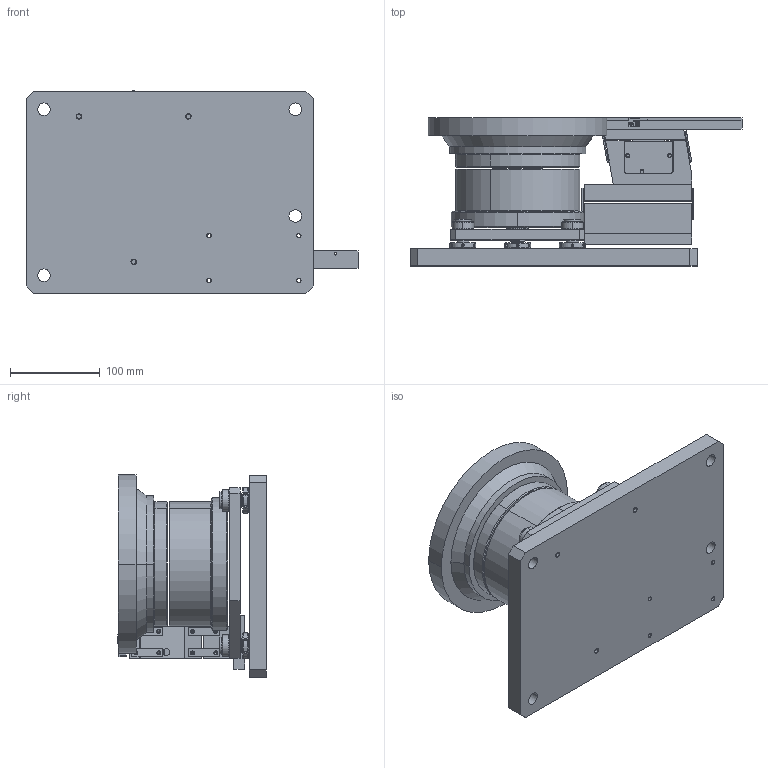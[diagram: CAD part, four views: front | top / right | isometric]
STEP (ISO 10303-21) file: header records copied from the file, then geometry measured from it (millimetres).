
FILE_DESCRIPTION((''),'2;1');
FILE_NAME('G_ASM','2021-09-02T10:45:12',('Administrator'),(''),'CREO PARAMETRIC BY PTC INC, 2020154','CREO PARAMETRIC BY PTC INC, 2020154','');
FILE_SCHEMA(('CONFIG_CONTROL_DESIGN'));
Length unit declared in the file: millimetre
Products named in the file (30): G1; BU140-1; BU140-2; BU140-3; BU140-4; BU140-20; BU140-21; BU140-22; BU140_5_ASM; BU140_ASM; B200; LT1; LT2; LT3; DS-P1; LT_ASM; LF100C-1; LF100C-2; SPRING35-9; LF100C-3; EM35-15-24_5; EM35-15-I; LF100C-15; LF100C_V_ASM; LF100C-10; LF100C-11; LF100C-12; LF100C_B_ASM; LF100C_ASM; G_ASM
Assembly tree (41 placements, depth 4):
  G_ASM
    G1
    BU140_ASM
      BU140-1
      BU140-2
      BU140-3
      BU140-4
      BU140_5_ASM  x3
        BU140-20
        BU140-21
        BU140-22
    B200
    LT_ASM
      LT1
      LT2
      LT3
      DS-P1  x2
    LF100C_ASM
      LF100C_V_ASM
        LF100C-1
        LF100C-2
        SPRING35-9  x4
        LF100C-3  x2
        EM35-15-24_5
        EM35-15-I
        LF100C-15  x2
      LF100C_B_ASM
        LF100C-10
        LF100C-11
        LF100C-12
        SPRING35-9  x4
Bounding box: 370 x 165.3 x 225.5 mm (x, y, z)
Volume: 3710579.5 mm3; surface area: 611104.3 mm2
Topology: 39 solids, 97 shells, 959 faces, 2353 edges, 1506 vertices
Faces by surface type: cylinder 486, plane 335, cone 138
Entity records: 21773 total; most frequent: DIRECTION 4103, CARTESIAN_POINT 3797, ORIENTED_EDGE 3118, EDGE_CURVE 1671, AXIS2_PLACEMENT_3D 1632, VERTEX_POINT 1114, EDGE_LOOP 895, VECTOR 839
